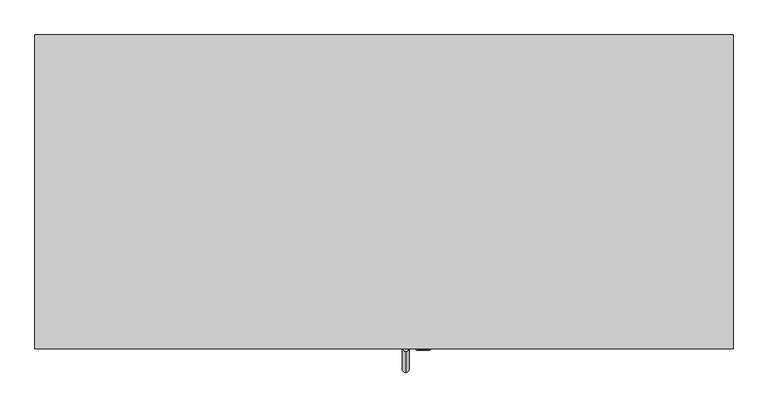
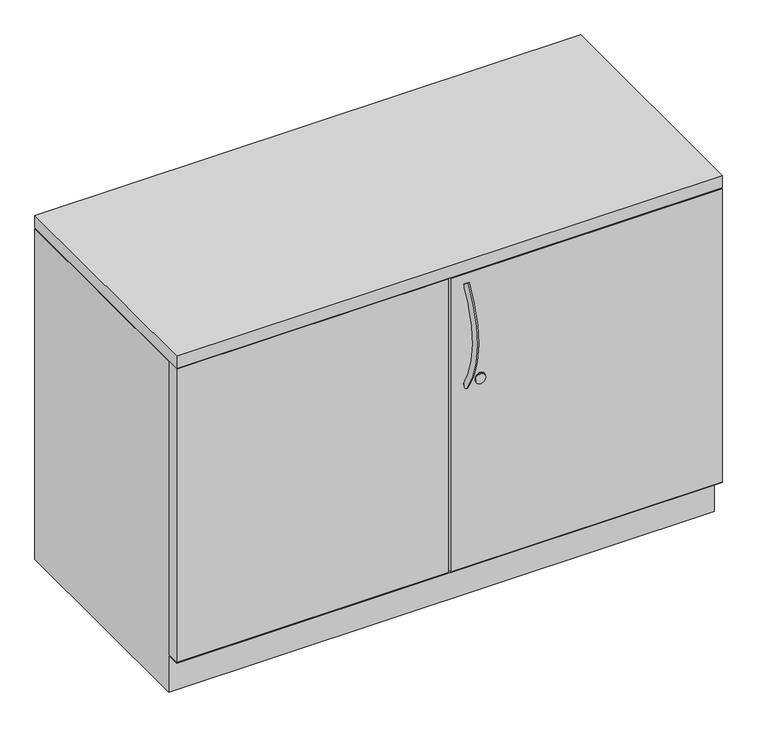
"""IFC4 building model written with IfcOpenShell, lengths in millimetres: furniture geometry, Steelcase - Universal Storage - Cabinet - Storage - 28H - Proud Steel : 18D x 42W."""

from ifc_helpers import new_model, si_unit, point, frame, frame_2d, origin, place, context, project, spatial, polyline, circle_curve, ellipse_curve, trimmed, segment, composite_curve, outline, extrude, faceted_brep, source, transform, mapped, element, save
from ifc_brep_helpers import plane_surface, revolved_surface, advanced_brep


def furniture_a10493a2(model_context):
    return source(origin(), model_context, "Body", "SolidModel", [
        extrude(outline(polyline([(1066.8, 0.0), (1066.8, -479.552), (0.0, -479.552), (0.0, 0.0), (1066.8, 0.0)])), frame((0.0, 0.0, 685.7999516), z_axis=(0.0, 0.0, 1.0), x_axis=(1.0, 0.0, 0.0)), (0.0, 0.0, 1.0), 25.4),
        extrude(outline(polyline([(0.0, -479.552), (0.0, -454.1528418), (530.86, -454.1528418), (530.86, -479.552), (0.0, -479.552)])), frame((0.0, 0.0, 77.724), z_axis=(0.0, 0.0, 1.0), x_axis=(1.0, 0.0, 0.0)), (0.0, 0.0, 1.0), 606.552),
        extrude(outline(polyline([(1066.8, -454.1528418), (1066.8, -479.552), (535.94, -479.552), (535.94, -454.1528418), (1066.8, -454.1528418)])), frame((0.0, 0.0, 77.724), z_axis=(0.0, 0.0, 1.0), x_axis=(1.0, 0.0, 0.0)), (0.0, 0.0, 1.0), 606.552),
        extrude(outline(composite_curve([segment(trimmed(circle_curve(frame_2d((458.724, 592.9418131)), 10.16), [point((458.724, 603.1018131))], [point((458.724, 582.7818131))], False, "CARTESIAN"), True, "CONTINUOUS"), segment(trimmed(circle_curve(frame_2d((458.724, 592.9418131)), 10.16), [point((458.724, 582.7818131))], [point((458.724, 603.1018131))], False, "CARTESIAN"), True, "CONTINUOUS")], self_intersect=False)), frame((0.0, -481.965031, 0.0), z_axis=(0.0, 1.0, 0.0), x_axis=(0.0, 0.0, 1.0)), (0.0, 0.0, 1.0), 2.413031),
        advanced_brep(
        [(566.4783765, -474.9744318, 660.7416018), (566.4783765, -483.5741633, 666.4120503), (566.4783765, -472.5471581, 453.0151915), (566.4783765, -481.0120418, 447.1453437)],
        [
            (0, 1, circle_curve(frame((566.4783765, -479.2742976, 663.5768261), z_axis=(0.0, 0.5504787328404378, 0.83484918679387), x_axis=(0.0, -0.83484918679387, 0.5504787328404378)), 5.1504701)),
            (1, 0, circle_curve(frame((566.4783765, -479.2742976, 663.5768261), z_axis=(0.0, 0.5504787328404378, 0.83484918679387), x_axis=(0.0, -0.83484918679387, 0.5504787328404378)), 5.1504701)),
            (2, 3, circle_curve(frame((566.4783765, -476.7796, 450.0802676), z_axis=(0.0, 0.5698361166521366, -0.8217583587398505), x_axis=(0.0, -0.8217583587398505, -0.5698361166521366)), 5.1504701)),
            (3, 2, circle_curve(frame((566.4783765, -476.7796, 450.0802676), z_axis=(0.0, 0.5698361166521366, -0.8217583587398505), x_axis=(0.0, -0.8217583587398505, -0.5698361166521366)), 5.1504701)),
            (3, 1, circle_curve(frame((566.4783765, -320.178461, 558.6729992), z_axis=(-1.0, 0.0, 0.0), x_axis=(0.0, -0.83484918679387, 0.5504787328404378)), 195.7188256)),
            (0, 2, circle_curve(frame((566.4783765, -320.178461, 558.6729992), z_axis=(1.0, 0.0, 0.0), x_axis=(0.0, -0.83484918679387, 0.5504787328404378)), 185.4178854)),
        ],
        [
            plane_surface(frame((566.4783765, -479.2742976, 663.5768261), z_axis=(0.0, 0.5504787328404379, 0.83484918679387), x_axis=(-1.0, 0.0, 0.0))),
            plane_surface(frame((566.4783765, -476.7796, 450.0802676), z_axis=(0.0, 0.5698361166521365, -0.8217583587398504), x_axis=(-1.0, 0.0, 0.0))),
            revolved_surface(trimmed(ellipse_curve(frame((566.4783765, -479.2742976, 663.5768261), z_axis=(0.0, 0.5504787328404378, 0.83484918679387), x_axis=(0.0, -0.83484918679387, 0.5504787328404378)), 5.1504701, 5.1504701), [point((566.4783765, -474.9744318, 660.7416018))], [point((566.4783765, -483.5741633, 666.4120503))], True, "CARTESIAN"), (566.4783765, -320.178461, 558.6729992), (1.0, 0.0, 0.0)),
            revolved_surface(trimmed(ellipse_curve(frame((566.4783765, -479.2742976, 663.5768261), z_axis=(0.0, 0.5504787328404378, 0.83484918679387), x_axis=(0.0, -0.83484918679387, 0.5504787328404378)), 5.1504701, 5.1504701), [point((566.4783765, -483.5741633, 666.4120503))], [point((566.4783765, -474.9744318, 660.7416018))], True, "CARTESIAN"), (566.4783765, -320.178461, 558.6729992), (1.0, 0.0, 0.0)),
        ],
        [
            (0, [[1, 2]]),
            (1, [[3, 4]]),
            (2, [[5, -1, 6, -4]]),
            (3, [[-6, -2, -5, -3]]),
        ],
    ),
        extrude(outline(composite_curve([segment(trimmed(circle_curve(frame_2d((460.3889832, 593.2109835)), 9.7167829), [point((460.3889832, 602.9277664))], [point((460.3889832, 583.4942006))], False, "CARTESIAN"), True, "CONTINUOUS"), segment(trimmed(circle_curve(frame_2d((460.3889832, 593.2109835)), 9.7167829), [point((460.3889832, 583.4942006))], [point((460.3889832, 602.9277664))], False, "CARTESIAN"), True, "CONTINUOUS")], self_intersect=False)), frame((0.0, -480.2215275, 0.0), z_axis=(0.0, 1.0, 0.0), x_axis=(0.0, 0.0, 1.0)), (0.0, 0.0, 1.0), 0.6695275),
        faceted_brep([(1066.8, 0.0, 0.0), (1066.8, -452.6288432, 0.0), (0.0, -452.6288432, 0.0), (0.0, 0.0, 0.0), (0.0, 0.0, 684.276), (1066.8, 0.0, 684.276), (0.0, -452.6288432, 76.2), (0.0, -479.552, 76.2), (0.0, -479.552, 77.724), (0.0, -452.6288432, 77.724), (0.0, -452.6288432, 684.276), (1066.8, -452.6288432, 76.2), (1066.8, -452.6288432, 684.276), (1066.8, -452.6288432, 77.724), (1066.8, -479.4258418, 77.724), (1066.8, -479.552, 76.2), (1041.4000242, -25.4000008, 684.276), (1041.4000242, -452.6288432, 684.276), (25.3999758, -452.6288432, 684.276), (25.3999758, -25.4000008, 684.276), (1041.4000242, -25.4000008, 77.724), (1041.4000242, -452.6288432, 77.724), (25.3999758, -452.6288432, 77.724), (25.3999758, -25.4000008, 77.724), (4.6981334, -454.1528418, 77.724), (1041.4000242, -454.1528418, 77.724)], [[[0, 1, 2, 3]], [[0, 3, 4, 5]], [[4, 3, 2, 6, 7, 8, 9, 10]], [[2, 1, 11, 6]], [[1, 0, 5, 12, 13, 14, 15, 11]], [[16, 17, 12, 5, 4, 10, 18, 19]], [[17, 16, 20, 21]], [[12, 17, 21, 13]], [[18, 10, 9, 22]], [[19, 18, 22, 23]], [[16, 19, 23, 20]], [[8, 24, 25, 14, 13, 21, 20, 23, 22, 9]], [[24, 8, 7]], [[25, 24, 7, 15]], [[14, 25, 15]], [[15, 7, 6, 11]]]),
    ])


if __name__ == "__main__":
    model = new_model("IFC4")
    model_context = context("Model", 3, world=origin())
    ifc_project = project(units=[si_unit("LENGTHUNIT", "METRE", prefix="MILLI")], contexts=[model_context])
    site = spatial("IfcSite", under=ifc_project)
    building = spatial("IfcBuilding", under=site)
    placement = place(None, origin())
    furniture_shape = furniture_a10493a2(model_context)
    element("IfcFurniture", 1, ObjectType="Steelcase - Universal Storage - Cabinet - Storage - 28H - Proud Steel : 18D x 42W", at=placement, inside=building, context=model_context, shape_type="MappedRepresentation", body=[
        mapped(furniture_shape, transform((0.0, 0.0, 0.0), x_axis=(1.0, 0.0, 0.0), y_axis=(0.0, 1.0, 0.0), z_axis=(0.0, 0.0, 1.0))),
    ])
    save(model, "model.ifc")
